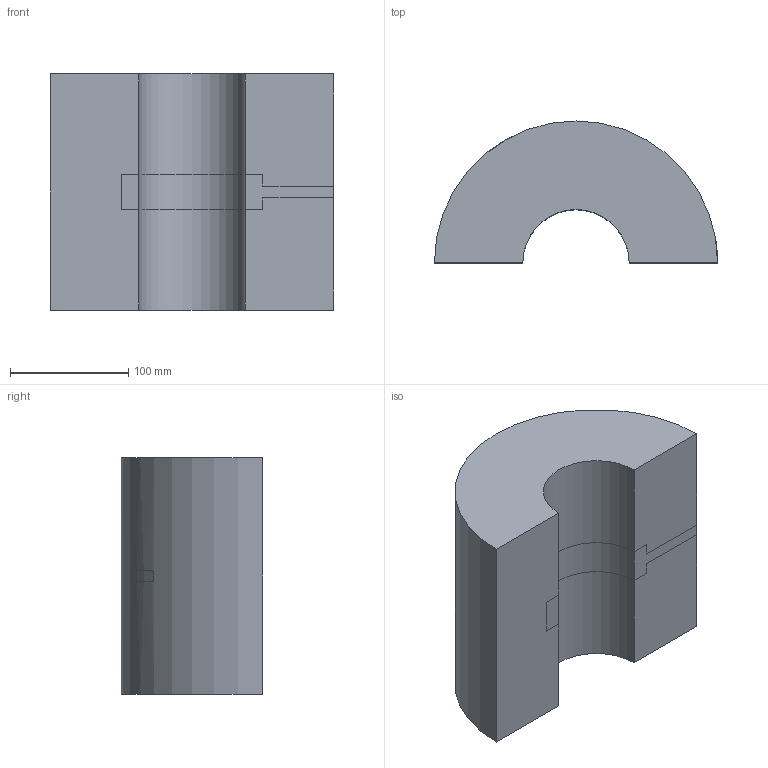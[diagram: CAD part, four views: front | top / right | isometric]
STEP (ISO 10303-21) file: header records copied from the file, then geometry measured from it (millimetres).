
FILE_DESCRIPTION(('FreeCAD Model'),'2;1');
FILE_NAME('Open CASCADE Shape Model','2025-01-09T01:09:58',('Author'),( ''),'Open CASCADE STEP processor 7.6','FreeCAD','Unknown');
FILE_SCHEMA(('AUTOMOTIVE_DESIGN { 1 0 10303 214 1 1 1 1 }'));
Length unit declared in the file: millimetre
Products named in the file (3): Unnamed; Common002; Common001
Assembly tree (2 placements, depth 2):
  Unnamed
    Common002
    Common001
Bounding box: 240 x 120 x 200 mm (x, y, z)
Volume: 3887721.6 mm3; surface area: 209843.6 mm2
Topology: 2 solids, 2 shells, 45 faces, 120 edges, 80 vertices
Faces by surface type: plane 25, cylinder 20
Entity records: 3960 total; most frequent: CARTESIAN_POINT 1756, DIRECTION 324, ORIENTED_EDGE 240, PCURVE 240, DEFINITIONAL_REPRESENTATION 240, LINE 164, VECTOR 164, B_SPLINE_CURVE_WITH_KNOTS 140
